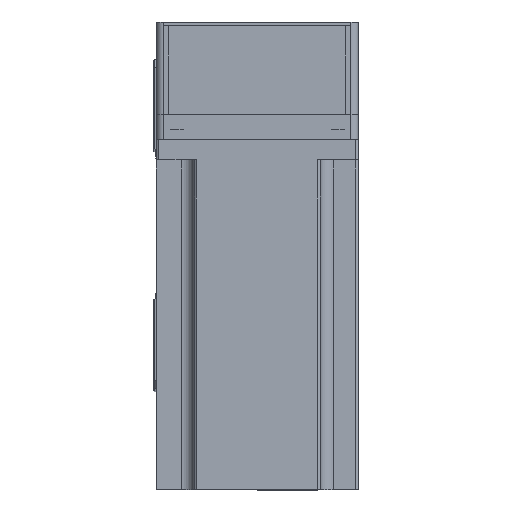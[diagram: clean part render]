
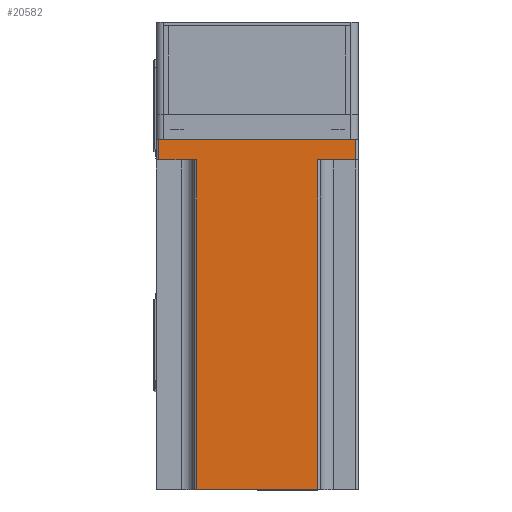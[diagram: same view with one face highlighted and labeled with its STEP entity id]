
A CAD part, top view. The second image highlights one B-rep face of the part: STEP entity #20582.
In plain terms, the highlighted planar face has unit normal (0, 0, 1) as drawn and (0, 1, 0) by its records, which use the part's own axes.
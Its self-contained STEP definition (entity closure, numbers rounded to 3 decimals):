
#585 = VECTOR ( 'NONE', #14464, 1000. ) ;
#960 = CARTESIAN_POINT ( 'NONE',  ( -24., 40., 8. ) ) ;
#1444 = EDGE_CURVE ( 'NONE', #43027, #38438, #41338, .T. ) ;
#2448 = FACE_OUTER_BOUND ( 'NONE', #43109, .T. ) ;
#2672 = AXIS2_PLACEMENT_3D ( 'NONE', #14213, #39874, #17886 ) ;
#3368 = CARTESIAN_POINT ( 'NONE',  ( 25., 40., 8. ) ) ;
#3539 = LINE ( 'NONE', #13046, #32903 ) ;
#3800 = LINE ( 'NONE', #17386, #12460 ) ;
#4007 = ORIENTED_EDGE ( 'NONE', *, *, #20360, .T. ) ;
#4213 = LINE ( 'NONE', #5183, #22591 ) ;
#5183 = CARTESIAN_POINT ( 'NONE',  ( -39., 40., 138.3 ) ) ;
#5217 = CARTESIAN_POINT ( 'NONE',  ( -24., 40., 138.3 ) ) ;
#5929 = ORIENTED_EDGE ( 'NONE', *, *, #39393, .T. ) ;
#6082 = VECTOR ( 'NONE', #24688, 1000. ) ;
#6748 = VECTOR ( 'NONE', #39397, 1000. ) ;
#8088 = CARTESIAN_POINT ( 'NONE',  ( 24., 40., 8. ) ) ;
#8430 = VERTEX_POINT ( 'NONE', #5217 ) ;
#8881 = CARTESIAN_POINT ( 'NONE',  ( -39., 40., 0. ) ) ;
#9009 = CARTESIAN_POINT ( 'NONE',  ( 24., 40., 138.3 ) ) ;
#10023 = CARTESIAN_POINT ( 'NONE',  ( -25., 40., 8. ) ) ;
#10170 = DIRECTION ( 'NONE',  ( -1., 0., 0. ) ) ;
#10235 = DIRECTION ( 'NONE',  ( 0., 0., -1. ) ) ;
#12460 = VECTOR ( 'NONE', #10170, 1000. ) ;
#12633 = DIRECTION ( 'NONE',  ( 0., 0., 1. ) ) ;
#13046 = CARTESIAN_POINT ( 'NONE',  ( 40., 40., 0. ) ) ;
#13233 = VECTOR ( 'NONE', #10235, 1000. ) ;
#13260 = VERTEX_POINT ( 'NONE', #9009 ) ;
#13316 = EDGE_CURVE ( 'NONE', #38438, #39172, #3539, .T. ) ;
#14213 = CARTESIAN_POINT ( 'NONE',  ( 40., 40., 138.3 ) ) ;
#14464 = DIRECTION ( 'NONE',  ( -1., 0., 0. ) ) ;
#17028 = LINE ( 'NONE', #21017, #6082 ) ;
#17386 = CARTESIAN_POINT ( 'NONE',  ( 40., 40., 138.3 ) ) ;
#17871 = ORIENTED_EDGE ( 'NONE', *, *, #42531, .F. ) ;
#17886 = DIRECTION ( 'NONE',  ( 1., 0., 0. ) ) ;
#19928 = CARTESIAN_POINT ( 'NONE',  ( 39., 40., 8. ) ) ;
#20360 = EDGE_CURVE ( 'NONE', #39172, #45169, #4213, .T. ) ;
#20582 = ADVANCED_FACE ( 'NONE', ( #2448 ), #46994, .F. ) ;
#21017 = CARTESIAN_POINT ( 'NONE',  ( 24., 40., 138.3 ) ) ;
#22591 = VECTOR ( 'NONE', #12633, 1000. ) ;
#22600 = CARTESIAN_POINT ( 'NONE',  ( -39., 40., 8. ) ) ;
#22844 = LINE ( 'NONE', #43348, #41217 ) ;
#24688 = DIRECTION ( 'NONE',  ( 0., 0., -1. ) ) ;
#26821 = ORIENTED_EDGE ( 'NONE', *, *, #1444, .T. ) ;
#28714 = EDGE_CURVE ( 'NONE', #13260, #47224, #17028, .T. ) ;
#31328 = ORIENTED_EDGE ( 'NONE', *, *, #13316, .T. ) ;
#32903 = VECTOR ( 'NONE', #38746, 1000. ) ;
#34570 = ORIENTED_EDGE ( 'NONE', *, *, #39335, .T. ) ;
#35695 = ORIENTED_EDGE ( 'NONE', *, *, #28714, .T. ) ;
#38151 = VERTEX_POINT ( 'NONE', #960 ) ;
#38438 = VERTEX_POINT ( 'NONE', #43637 ) ;
#38746 = DIRECTION ( 'NONE',  ( -1., 0., 0. ) ) ;
#39172 = VERTEX_POINT ( 'NONE', #8881 ) ;
#39335 = EDGE_CURVE ( 'NONE', #45169, #38151, #44616, .T. ) ;
#39393 = EDGE_CURVE ( 'NONE', #38151, #8430, #22844, .T. ) ;
#39397 = DIRECTION ( 'NONE',  ( 1., 0., 0. ) ) ;
#39446 = CARTESIAN_POINT ( 'NONE',  ( 39., 40., 138.3 ) ) ;
#39874 = DIRECTION ( 'NONE',  ( 0., -1., 0. ) ) ;
#41217 = VECTOR ( 'NONE', #46976, 1000. ) ;
#41338 = LINE ( 'NONE', #39446, #13233 ) ;
#42531 = EDGE_CURVE ( 'NONE', #13260, #8430, #3800, .T. ) ;
#43027 = VERTEX_POINT ( 'NONE', #19928 ) ;
#43109 = EDGE_LOOP ( 'NONE', ( #34570, #5929, #17871, #35695, #45107, #26821, #31328, #4007 ) ) ;
#43348 = CARTESIAN_POINT ( 'NONE',  ( -24., 40., 138.3 ) ) ;
#43637 = CARTESIAN_POINT ( 'NONE',  ( 39., 40., 0. ) ) ;
#44616 = LINE ( 'NONE', #10023, #6748 ) ;
#45022 = EDGE_CURVE ( 'NONE', #43027, #47224, #47070, .T. ) ;
#45107 = ORIENTED_EDGE ( 'NONE', *, *, #45022, .F. ) ;
#45169 = VERTEX_POINT ( 'NONE', #22600 ) ;
#46976 = DIRECTION ( 'NONE',  ( 0., 0., 1. ) ) ;
#46994 = PLANE ( 'NONE',  #2672 ) ;
#47070 = LINE ( 'NONE', #3368, #585 ) ;
#47224 = VERTEX_POINT ( 'NONE', #8088 ) ;
